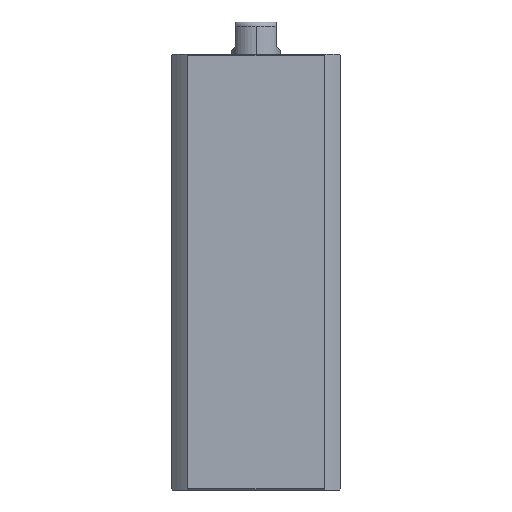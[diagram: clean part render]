
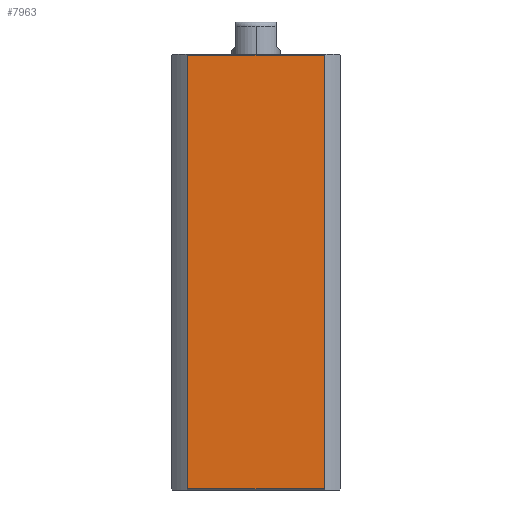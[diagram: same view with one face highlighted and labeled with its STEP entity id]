
A CAD part, left-side view. The second image highlights one B-rep face of the part: STEP entity #7963.
In plain terms, the highlighted planar face has unit normal (-1, 0, 0).
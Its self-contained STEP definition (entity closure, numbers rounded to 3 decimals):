
#479 = ORIENTED_EDGE ( 'NONE', *, *, #1267, .T. ) ;
#636 = EDGE_CURVE ( 'NONE', #8886, #7684, #1253, .T. ) ;
#1000 = DIRECTION ( 'NONE',  ( 0., 1., 0. ) ) ;
#1101 = LINE ( 'NONE', #8032, #8610 ) ;
#1253 = LINE ( 'NONE', #3649, #11135 ) ;
#1267 = EDGE_CURVE ( 'NONE', #9036, #7684, #1101, .T. ) ;
#1832 = CARTESIAN_POINT ( 'NONE',  ( -21., 16.971, 107.7 ) ) ;
#2282 = DIRECTION ( 'NONE',  ( 1., 0., 0. ) ) ;
#2441 = LINE ( 'NONE', #5518, #11209 ) ;
#3382 = ORIENTED_EDGE ( 'NONE', *, *, #6102, .F. ) ;
#3649 = CARTESIAN_POINT ( 'NONE',  ( -21., -16.971, -42. ) ) ;
#3660 = DIRECTION ( 'NONE',  ( 0., 0., -1. ) ) ;
#3923 = PLANE ( 'NONE',  #4384 ) ;
#4384 = AXIS2_PLACEMENT_3D ( 'NONE', #7698, #2282, #8623 ) ;
#4806 = VERTEX_POINT ( 'NONE', #1832 ) ;
#5192 = ORIENTED_EDGE ( 'NONE', *, *, #636, .F. ) ;
#5240 = ORIENTED_EDGE ( 'NONE', *, *, #11172, .T. ) ;
#5518 = CARTESIAN_POINT ( 'NONE',  ( -21., 21., 107.7 ) ) ;
#5700 = EDGE_LOOP ( 'NONE', ( #3382, #479, #5192, #5240 ) ) ;
#6069 = VECTOR ( 'NONE', #6105, 1000. ) ;
#6102 = EDGE_CURVE ( 'NONE', #9036, #4806, #8764, .T. ) ;
#6105 = DIRECTION ( 'NONE',  ( 0., 0., 1. ) ) ;
#6693 = CARTESIAN_POINT ( 'NONE',  ( -21., -16.971, 0.3 ) ) ;
#7684 = VERTEX_POINT ( 'NONE', #6693 ) ;
#7698 = CARTESIAN_POINT ( 'NONE',  ( -21., 21., 108. ) ) ;
#7963 = ADVANCED_FACE ( 'NONE', ( #10609 ), #3923, .F. ) ;
#8032 = CARTESIAN_POINT ( 'NONE',  ( -21., 21., 0.3 ) ) ;
#8610 = VECTOR ( 'NONE', #8869, 1000. ) ;
#8623 = DIRECTION ( 'NONE',  ( 0., 1., 0. ) ) ;
#8764 = LINE ( 'NONE', #10688, #6069 ) ;
#8869 = DIRECTION ( 'NONE',  ( 0., -1., 0. ) ) ;
#8886 = VERTEX_POINT ( 'NONE', #9158 ) ;
#9036 = VERTEX_POINT ( 'NONE', #10422 ) ;
#9158 = CARTESIAN_POINT ( 'NONE',  ( -21., -16.971, 107.7 ) ) ;
#10422 = CARTESIAN_POINT ( 'NONE',  ( -21., 16.971, 0.3 ) ) ;
#10609 = FACE_OUTER_BOUND ( 'NONE', #5700, .T. ) ;
#10688 = CARTESIAN_POINT ( 'NONE',  ( -21., 16.971, -42. ) ) ;
#11135 = VECTOR ( 'NONE', #3660, 1000. ) ;
#11172 = EDGE_CURVE ( 'NONE', #8886, #4806, #2441, .T. ) ;
#11209 = VECTOR ( 'NONE', #1000, 1000. ) ;
